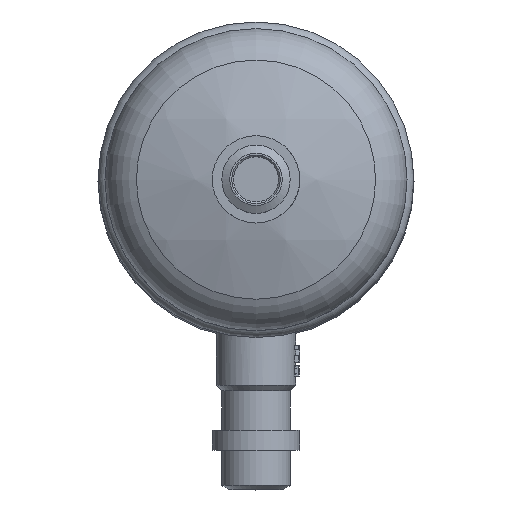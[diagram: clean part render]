
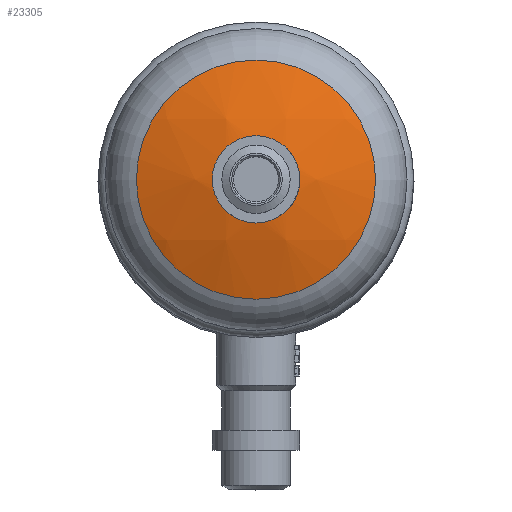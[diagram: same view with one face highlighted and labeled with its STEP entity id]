
A CAD part, top view. The second image highlights one B-rep face of the part: STEP entity #23305.
In plain terms, the highlighted spherical face has radius 81.1 mm.
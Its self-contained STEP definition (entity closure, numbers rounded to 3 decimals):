
#1395=SPHERICAL_SURFACE('',#24710,81.1);
#1428=FACE_BOUND('',#3662,.T.);
#2312=FACE_OUTER_BOUND('',#3661,.T.);
#3661=EDGE_LOOP('',(#15851,#15852));
#3662=EDGE_LOOP('',(#15853,#15854));
#5578=CIRCLE('',#24701,30.124);
#5579=CIRCLE('',#24702,30.124);
#5586=CIRCLE('',#24711,10.);
#5587=CIRCLE('',#24712,10.);
#9627=VERTEX_POINT('',#32191);
#9628=VERTEX_POINT('',#32192);
#9634=VERTEX_POINT('',#32209);
#9635=VERTEX_POINT('',#32210);
#12103=EDGE_CURVE('',#9627,#9628,#5578,.T.);
#12104=EDGE_CURVE('',#9628,#9627,#5579,.T.);
#12112=EDGE_CURVE('',#9634,#9635,#5586,.T.);
#12113=EDGE_CURVE('',#9635,#9634,#5587,.T.);
#15851=ORIENTED_EDGE('',*,*,#12103,.T.);
#15852=ORIENTED_EDGE('',*,*,#12104,.T.);
#15853=ORIENTED_EDGE('',*,*,#12112,.F.);
#15854=ORIENTED_EDGE('',*,*,#12113,.F.);
#23305=ADVANCED_FACE('',(#2312,#1428),#1395,.T.);
#24701=AXIS2_PLACEMENT_3D('',#32193,#26661,#26662);
#24702=AXIS2_PLACEMENT_3D('',#32194,#26663,#26664);
#24710=AXIS2_PLACEMENT_3D('',#32208,#26680,#26681);
#24711=AXIS2_PLACEMENT_3D('',#32211,#26682,#26683);
#24712=AXIS2_PLACEMENT_3D('',#32212,#26684,#26685);
#26661=DIRECTION('center_axis',(0.,0.,
1.));
#26662=DIRECTION('ref_axis',(-1.,0.,0.));
#26663=DIRECTION('center_axis',(0.,0.,
1.));
#26664=DIRECTION('ref_axis',(-1.,0.,0.));
#26680=DIRECTION('center_axis',(0.,-1.,0.));
#26681=DIRECTION('ref_axis',(1.,0.,0.));
#26682=DIRECTION('center_axis',(0.,0.,
1.));
#26683=DIRECTION('ref_axis',(0.,1.,0.));
#26684=DIRECTION('center_axis',(0.,0.,
1.));
#26685=DIRECTION('ref_axis',(0.,1.,0.));
#32191=CARTESIAN_POINT('',(-30.124,0.,205.708));
#32192=CARTESIAN_POINT('',(0.,30.124,205.708));
#32193=CARTESIAN_POINT('Origin',(0.,0.,
205.708));
#32194=CARTESIAN_POINT('Origin',(0.,0.,
205.708));
#32208=CARTESIAN_POINT('Origin',(0.,0.,130.41));
#32209=CARTESIAN_POINT('',(0.,10.,210.891));
#32210=CARTESIAN_POINT('',(0.,-10.,210.891));
#32211=CARTESIAN_POINT('Origin',(0.,0.,
210.891));
#32212=CARTESIAN_POINT('Origin',(0.,0.,
210.891));
